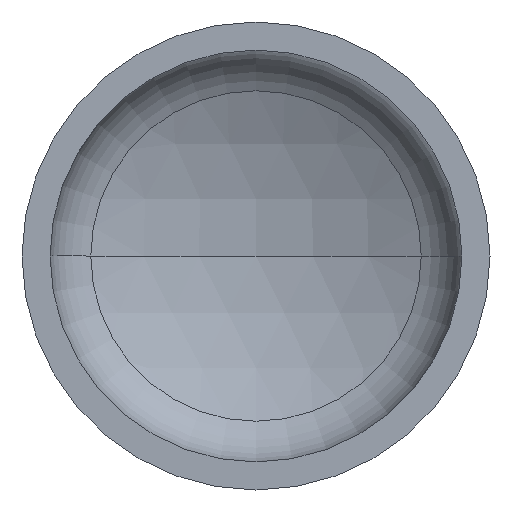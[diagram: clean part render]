
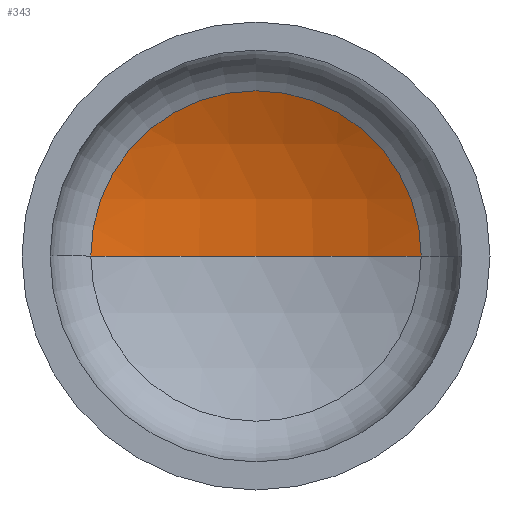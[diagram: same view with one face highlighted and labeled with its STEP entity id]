
A CAD part, front view. The second image highlights one B-rep face of the part: STEP entity #343.
In plain terms, the highlighted spherical face has radius 720 mm.
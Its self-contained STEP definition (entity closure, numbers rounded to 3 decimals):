
#1 = CIRCLE ( 'NONE', #128, 720. ) ;
#9 = VERTEX_POINT ( 'NONE', #290 ) ;
#15 = EDGE_LOOP ( 'NONE', ( #113, #112, #55 ) ) ;
#26 = CIRCLE ( 'NONE', #138, 317.793 ) ;
#31 = AXIS2_PLACEMENT_3D ( 'NONE', #377, #156, #175 ) ;
#55 = ORIENTED_EDGE ( 'NONE', *, *, #232, .T. ) ;
#58 = VERTEX_POINT ( 'NONE', #231 ) ;
#70 = DIRECTION ( 'NONE',  ( 1., 0., 0. ) ) ;
#112 = ORIENTED_EDGE ( 'NONE', *, *, #236, .T. ) ;
#113 = ORIENTED_EDGE ( 'NONE', *, *, #244, .F. ) ;
#121 = VERTEX_POINT ( 'NONE', #327 ) ;
#128 = AXIS2_PLACEMENT_3D ( 'NONE', #262, #261, #285 ) ;
#134 = AXIS2_PLACEMENT_3D ( 'NONE', #201, #224, #217 ) ;
#138 = AXIS2_PLACEMENT_3D ( 'NONE', #269, #287, #70 ) ;
#156 = DIRECTION ( 'NONE',  ( 0., 0., -1. ) ) ;
#175 = DIRECTION ( 'NONE',  ( -1., 0., 0. ) ) ;
#201 = CARTESIAN_POINT ( 'NONE',  ( 0., -400.446, 0. ) ) ;
#217 = DIRECTION ( 'NONE',  ( -1., 0., 0. ) ) ;
#221 = FACE_OUTER_BOUND ( 'NONE', #15, .T. ) ;
#224 = DIRECTION ( 'NONE',  ( 0., 0., -1. ) ) ;
#231 = CARTESIAN_POINT ( 'NONE',  ( -317.793, 245.625, 0. ) ) ;
#232 = EDGE_CURVE ( 'NONE', #121, #58, #26, .T. ) ;
#236 = EDGE_CURVE ( 'NONE', #9, #121, #253, .T. ) ;
#244 = EDGE_CURVE ( 'NONE', #9, #58, #1, .T. ) ;
#253 = CIRCLE ( 'NONE', #134, 720. ) ;
#261 = DIRECTION ( 'NONE',  ( 0., 0., 1. ) ) ;
#262 = CARTESIAN_POINT ( 'NONE',  ( 0., -400.446, 0. ) ) ;
#269 = CARTESIAN_POINT ( 'NONE',  ( 0., 245.625, 0. ) ) ;
#285 = DIRECTION ( 'NONE',  ( 1., 0., 0. ) ) ;
#287 = DIRECTION ( 'NONE',  ( 0., -1., 0. ) ) ;
#290 = CARTESIAN_POINT ( 'NONE',  ( 0., 319.554, 0. ) ) ;
#327 = CARTESIAN_POINT ( 'NONE',  ( 317.793, 245.625, 0. ) ) ;
#343 = ADVANCED_FACE ( 'NONE', ( #221 ), #398, .F. ) ;
#377 = CARTESIAN_POINT ( 'NONE',  ( 0., -400.446, 0. ) ) ;
#398 = SPHERICAL_SURFACE ( 'NONE', #31, 720. ) ;
